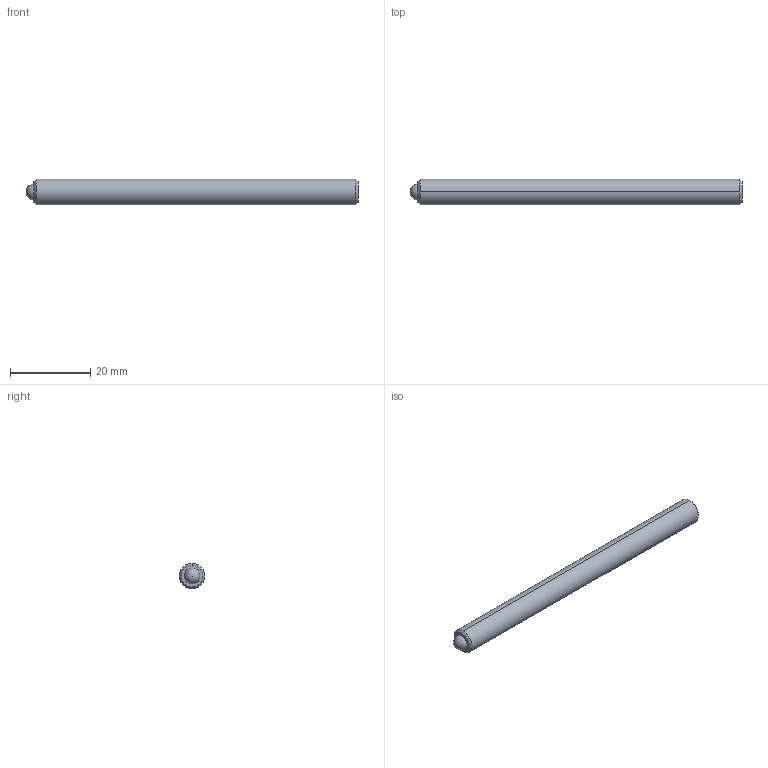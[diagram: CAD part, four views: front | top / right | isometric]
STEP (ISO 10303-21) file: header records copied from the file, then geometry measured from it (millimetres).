
FILE_DESCRIPTION (( 'STEP AP214' ), '1' );
FILE_NAME ('TS250-100-3250.STEP', '2013-02-13T13:52:35', ( 'workpc' ), ( 'Microsoft' ), 'SwSTEP 2.0', 'SolidWorks 2013', '' );
FILE_SCHEMA (( 'AUTOMOTIVE_DESIGN' ));
Length unit declared in the file: inch
Products named in the file (1): TS250-100-3250
Bounding box: 82.55 x 6.35 x 6.35 mm (x, y, z)
Volume: 2543.6 mm3; surface area: 1751 mm2
Topology: 2 solids, 2 shells, 20 faces, 45 edges, 29 vertices
Faces by surface type: plane 10, cylinder 4, cone 4, sphere 2
Entity records: 599 total; most frequent: DIRECTION 96, CARTESIAN_POINT 87, ORIENTED_EDGE 80, EDGE_CURVE 40, AXIS2_PLACEMENT_3D 35, LINE 26, VERTEX_POINT 26, VECTOR 26
